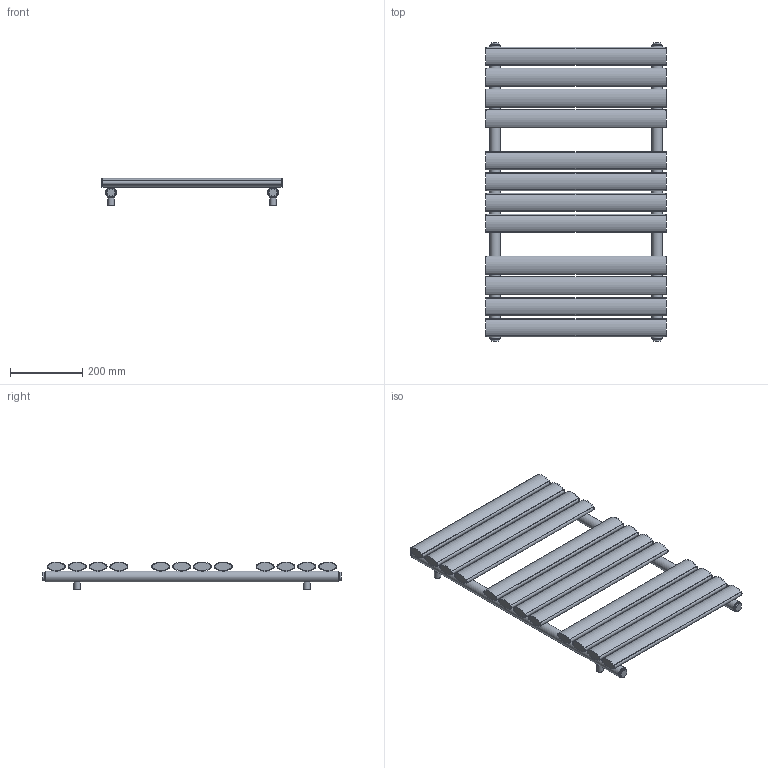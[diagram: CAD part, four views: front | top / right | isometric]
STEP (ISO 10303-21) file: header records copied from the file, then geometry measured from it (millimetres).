
FILE_DESCRIPTION(/* description */ (''),/* implementation_level */ '2;1');
FILE_NAME(/* name */ 'C:\Grzejniki\13DLUXRAD\łazienkowe\NEO\NEO 816x500.iam.stp',/* time_stamp */ '2016-06-28T17:35:36+02:00',/* author */ ('m.szydziak'),/* organization */ (''),/* preprocessor_version */ 'ST-DEVELOPER v16.5',/* originating_system */ 'Autodesk Inventor 2017',/* authorisation */ '');
FILE_SCHEMA (('AUTOMOTIVE_DESIGN { 1 0 10303 214 3 1 1 }'));
Length unit declared in the file: millimetre
Products named in the file (6): NEO 816x500; fi30x1,5x816; 50x25x1,2x500; zaślepka fi30 G0,5inch; uchwyt stały; korek
Assembly tree (26 placements, depth 2):
  NEO 816x500
    fi30x1,5x816  x2
    50x25x1,2x500  x12
    zaślepka fi30 G0,5inch  x4
    uchwyt stały  x4
    korek  x4
Bounding box: 500 x 828 x 76.86 mm (x, y, z)
Volume: 1102386.1 mm3; surface area: 1752408.8 mm2
Topology: 26 solids, 26 shells, 300 faces, 766 edges, 546 vertices
Faces by surface type: cylinder 172, plane 128
Full cylindrical faces by diameter (mm): 5 x24, 5.8 x24, 15 x4, 18 x4, 18.631 x8, 24 x4, 27 x6, 30 x2
Entity records: 2874 total; most frequent: CARTESIAN_POINT 1259, DIRECTION 300, ORIENTED_EDGE 238, AXIS2_PLACEMENT_3D 134, EDGE_CURVE 119, EDGE_LOOP 116, VERTEX_POINT 99, FACE_BOUND 59
